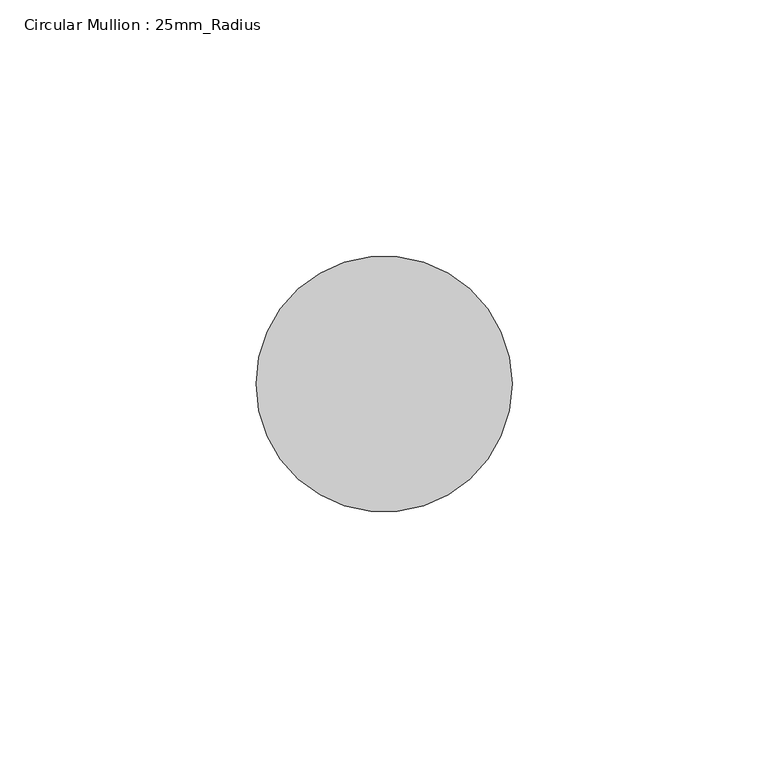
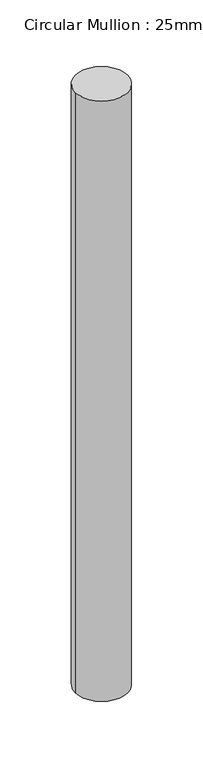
"""IFC4 building model written with IfcOpenShell, lengths in millimetres: member geometry, Circular Mullion : 25mm_Radius."""

from ifc_helpers import new_model, si_unit, point, frame, frame_2d, origin, place, context, project, spatial, circle_curve, trimmed, segment, composite_curve, outline, extrude, source, transform, mapped, element, save


def circular_mullion_25mm_radius_f71c3fd4(model_context):
    return source(origin(), model_context, "Body", "SweptSolid", [
        extrude(outline(composite_curve([segment(trimmed(circle_curve(frame_2d((-25.0, 0.0)), 25.0), [point((0.0, 0.0))], [point((-50.0, 0.0))], False, "CARTESIAN"), True, "CONTINUOUS"), segment(trimmed(circle_curve(frame_2d((-25.0, 0.0)), 25.0), [point((-50.0, 0.0))], [point((0.0, 0.0))], False, "CARTESIAN"), True, "CONTINUOUS")], self_intersect=False)), frame((0.0, 0.0, -607.805107), z_axis=(0.0, 0.0, 1.0), x_axis=(1.0, 0.0, 0.0)), (0.0, 0.0, 1.0), 607.805107),
    ])


if __name__ == "__main__":
    model = new_model("IFC4")
    model_context = context("Model", 3, world=origin())
    ifc_project = project(units=[si_unit("LENGTHUNIT", "METRE", prefix="MILLI")], contexts=[model_context])
    site = spatial("IfcSite", under=ifc_project)
    building = spatial("IfcBuilding", under=site)
    placement = place(None, origin())
    circular_mullion_25mm_radius_shape = circular_mullion_25mm_radius_f71c3fd4(model_context)
    element("IfcMember", 1, ObjectType="Circular Mullion : 25mm_Radius", at=placement, inside=building, context=model_context, shape_type="MappedRepresentation", body=[
        mapped(circular_mullion_25mm_radius_shape, transform((0.0, 0.0, 0.0), x_axis=(1.0, 0.0, 0.0), y_axis=(0.0, 1.0, 0.0), z_axis=(0.0, 0.0, 1.0))),
    ])
    save(model, "model.ifc")
